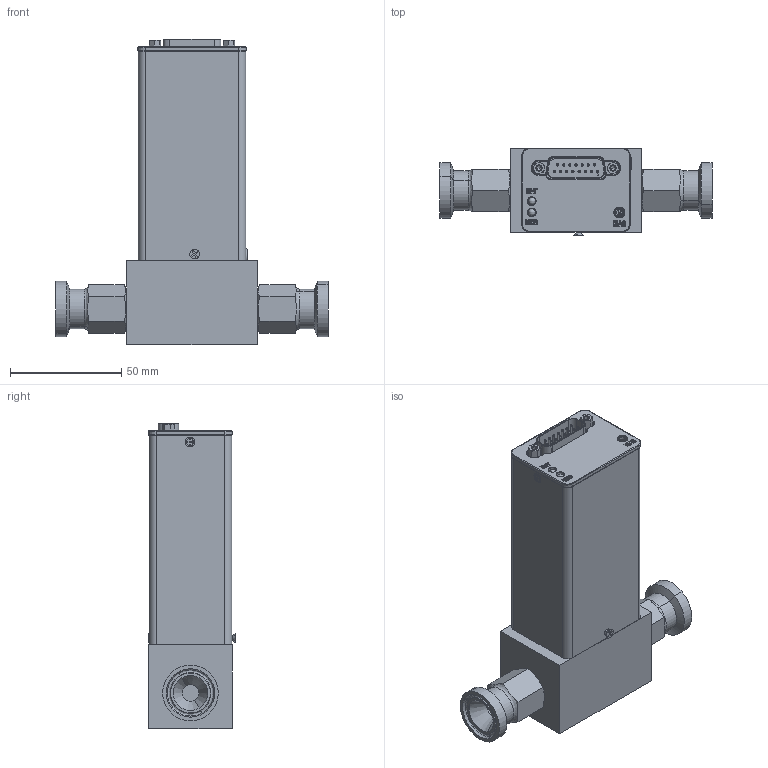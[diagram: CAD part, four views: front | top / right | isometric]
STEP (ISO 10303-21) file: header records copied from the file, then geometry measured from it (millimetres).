
FILE_DESCRIPTION (( 'STEP AP203' ), '1' );
FILE_NAME ('SLA5860-S-5B-0-C-REVB.STEP', '2019-11-22T15:25:26', ( '' ), ( '' ), 'SwSTEP 2.0', 'SolidWorks 2019', '' );
FILE_SCHEMA (( 'CONFIG_CONTROL_DESIGN' ));
Length unit declared in the file: inch
Products named in the file (2): SLA5860-S-5B-0-C-REVB
Bounding box: 122.58 x 39.41 x 137.39 mm (x, y, z)
Volume: 119984.8 mm3; surface area: 62244.1 mm2
Topology: 42 solids, 42 shells, 1978 faces, 5156 edges, 3287 vertices
Faces by surface type: plane 937, cylinder 624, bspline 227, cone 190
Entity records: 65519 total; most frequent: CARTESIAN_POINT 16953, ORIENTED_EDGE 10248, DIRECTION 10028, EDGE_CURVE 5124, AXIS2_PLACEMENT_3D 3515, VERTEX_POINT 3287, VECTOR 2998, LINE 2998
